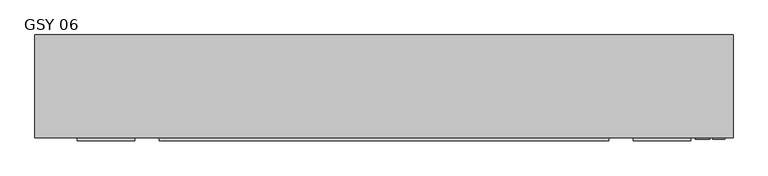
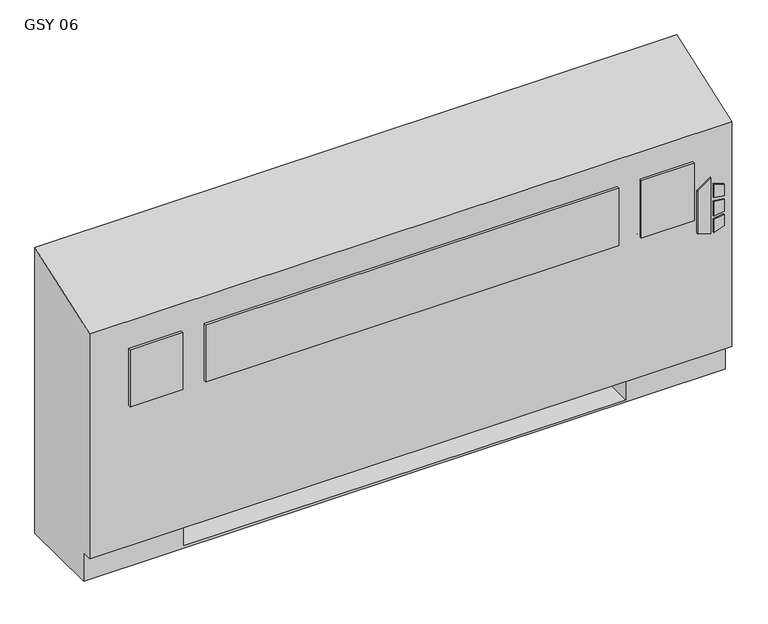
"""IFC4 building model written with IfcOpenShell, lengths in millimetres: proxy geometry, Vertical_Fan_Coil_Unit_-_GSY_-_IEC_-_2-Pipe_FS-FR_RH_2022 : GSY 06."""

from ifc_helpers import new_model, si_unit, point, frame, frame_2d, origin, place, context, project, spatial, polyline, circle_curve, trimmed, segment, composite_curve, outline, extrude, source, transform, mapped, element, save
from ifc_brep_helpers import plane_surface, revolved_surface, advanced_brep


def gsy_06_d914853d(model_context):
    return source(origin(), model_context, "Body", "SolidModel", [
        extrude(outline(polyline([(391.6086829, 843.0368862), (381.6606126, 875.2102728), (523.831537, 875.2102728), (500.8095309, 843.0368862), (391.6086829, 843.0368862)])), frame((0.0, 12.7, 0.0), z_axis=(0.0, 1.0, 0.0), x_axis=(0.0, 0.0, 1.0)), (0.0, 0.0, 1.0), 3.175),
        extrude(outline(polyline([(470.6079683, 881.9686058), (467.4055757, 908.05), (496.6344168, 908.05), (504.6988318, 881.9686058), (470.6079683, 881.9686058)])), frame((0.0, 12.7, 0.0), z_axis=(0.0, 1.0, 0.0), x_axis=(0.0, 0.0, 1.0)), (0.0, 0.0, 1.0), 3.175),
        extrude(outline(polyline([(418.7444414, 908.05), (415.0789404, 881.9686058), (381.6606126, 881.9686058), (390.2948498, 908.05), (418.7444414, 908.05)])), frame((0.0, 12.7, 0.0), z_axis=(0.0, 1.0, 0.0), x_axis=(0.0, 0.0, 1.0)), (0.0, 0.0, 1.0), 3.175),
        extrude(outline(polyline([(458.0596028, 908.05), (460.3414292, 881.9686058), (424.4038806, 881.9686058), (427.1451456, 908.05), (458.0596028, 908.05)])), frame((0.0, 12.7, 0.0), z_axis=(0.0, 1.0, 0.0), x_axis=(0.0, 0.0, 1.0)), (0.0, 0.0, 1.0), 3.175),
        extrude(outline(polyline([(-401.193, 9.525), (-528.193, 9.525), (-528.193, 15.875), (-401.193, 15.875), (-401.193, 9.525)])), frame((0.0, 0.0, 431.8), z_axis=(0.0, 0.0, 1.0), x_axis=(1.0, 0.0, 0.0)), (0.0, 0.0, 1.0), 146.05),
        extrude(outline(polyline([(650.875, 9.525), (-346.075, 9.525), (-346.075, 15.875), (650.875, 15.875), (650.875, 9.525)])), frame((0.0, 0.0, 431.8), z_axis=(0.0, 0.0, 1.0), x_axis=(1.0, 0.0, 0.0)), (0.0, 0.0, 1.0), 146.05),
        extrude(outline(polyline([(832.993, 9.525), (705.993, 9.525), (705.993, 15.875), (832.993, 15.875), (832.993, 9.525)])), frame((0.0, 0.0, 431.8), z_axis=(0.0, 0.0, 1.0), x_axis=(1.0, 0.0, 0.0)), (0.0, 0.0, 1.0), 146.05),
        extrude(outline(polyline([(-501.65, 81.534), (-501.65, 223.266), (-127.0, 223.266), (-127.0, 81.534), (-501.65, 81.534)])), frame((0.0, 0.0, 327.025), z_axis=(0.0, 0.0, 1.0), x_axis=(1.0, 0.0, 0.0)), (0.0, 0.0, 1.0), 260.35),
        extrude(outline(composite_curve([segment(trimmed(circle_curve(frame_2d((80.645, 397.002)), 7.9375), [point((80.645, 404.9395))], [point((80.645, 389.0645))], False, "CARTESIAN"), True, "CONTINUOUS"), segment(trimmed(circle_curve(frame_2d((80.645, 397.002)), 7.9375), [point((80.645, 389.0645))], [point((80.645, 404.9395))], False, "CARTESIAN"), True, "CONTINUOUS")], self_intersect=False)), frame((685.8, 0.0, 0.0), z_axis=(1.0, 0.0, 0.0), x_axis=(0.0, 1.0, 0.0)), (0.0, 0.0, 1.0), 50.8),
        extrude(outline(composite_curve([segment(trimmed(circle_curve(frame_2d((156.8958, 535.8892)), 7.9375), [point((156.8958, 543.8267))], [point((156.8958, 527.9517))], False, "CARTESIAN"), True, "CONTINUOUS"), segment(trimmed(circle_curve(frame_2d((156.8958, 535.8892)), 7.9375), [point((156.8958, 527.9517))], [point((156.8958, 543.8267))], False, "CARTESIAN"), True, "CONTINUOUS")], self_intersect=False)), frame((685.8, 0.0, 0.0), z_axis=(1.0, 0.0, 0.0), x_axis=(0.0, 1.0, 0.0)), (0.0, 0.0, 1.0), 50.8),
        advanced_brep(
        [(-622.3, 244.475, 0.0), (927.1, 244.475, 0.0), (927.1, 41.275, 0.0), (-622.3, 41.275, 0.0), (-622.3, 244.475, 730.25), (927.1, 244.475, 730.25), (685.8, 244.475, 73.025), (914.4, 244.475, 73.025), (914.4, 244.475, 654.05), (685.8, 244.475, 654.05), (685.8, 244.475, 414.8650565), (714.375, 244.475, 414.8650565), (714.375, 244.475, 385.2349435), (685.8, 244.475, 385.2349435), (685.8, 244.475, 287.3375), (714.375, 244.475, 287.3375), (714.375, 244.475, 258.7625), (685.8, 244.475, 258.7625), (685.8, 244.475, 141.2875), (714.375, 244.475, 141.2875), (714.375, 244.475, 112.7125), (685.8, 244.475, 112.7125), (-381.0, 244.475, 654.05), (-609.6, 244.475, 654.05), (-609.6, 244.475, 73.025), (-381.0, 244.475, 73.025), (-381.0, 244.475, 112.7125), (-409.575, 244.475, 112.7125), (-409.575, 244.475, 141.2875), (-381.0, 244.475, 141.2875), (-381.0, 244.475, 258.7625), (-409.575, 244.475, 258.7625), (-409.575, 244.475, 287.3375), (-381.0, 244.475, 287.3375), (-381.0, 244.475, 385.2349435), (-409.575, 244.475, 385.2349435), (-409.575, 244.475, 414.8650565), (-381.0, 244.475, 414.8650565), (704.0626, 244.475, 127.0), (692.9374, 244.475, 127.0), (704.0626, 244.475, 400.05), (692.9374, 244.475, 400.05), (704.0626, 244.475, 273.05), (692.9374, 244.475, 273.05), (-388.1374, 244.475, 127.0), (-399.2626, 244.475, 127.0), (-388.1374, 244.475, 273.05), (-399.2626, 244.475, 273.05), (-388.1374, 244.475, 400.05), (-399.2626, 244.475, 400.05), (-622.3, 41.275, 73.025), (-622.3, 15.875, 73.025), (-622.3, 15.875, 647.7), (927.1, 15.875, 73.025), (927.1, 15.875, 647.7), (927.1, 41.275, 73.025), (-381.0, 41.275, 73.025), (-381.0, 225.425, 73.025), (685.8, 225.425, 73.025), (685.8, 41.275, 73.025), (685.8, 41.275, 6.35), (-381.0, 41.275, 6.35), (685.8, 41.275, 654.05), (914.4, 41.275, 654.05), (914.4, 41.275, 73.025), (685.8, 41.275, 73.025), (-381.0, 41.275, 654.05), (-381.0, 41.275, 73.025), (-609.6, 41.275, 73.025), (-609.6, 41.275, 654.05), (685.8, 225.425, 73.025), (685.8, 238.125, 112.7125), (685.8, 238.125, 141.2875), (685.8, 238.125, 258.7625), (685.8, 238.125, 287.3375), (685.8, 238.125, 385.2349435), (685.8, 238.125, 414.8650565), (-381.0, 225.425, 73.025), (-381.0, 238.125, 414.8650565), (-381.0, 238.125, 385.2349435), (-381.0, 238.125, 287.3375), (-381.0, 238.125, 258.7625), (-381.0, 238.125, 141.2875), (-381.0, 238.125, 112.7125), (-381.0, 225.425, 6.35), (685.8, 225.425, 6.35), (714.375, 238.125, 112.7125), (714.375, 238.125, 141.2875), (692.9374, 238.125, 127.0), (704.0626, 238.125, 127.0), (714.375, 238.125, 258.7625), (714.375, 238.125, 287.3375), (692.9374, 238.125, 273.05), (704.0626, 238.125, 273.05), (714.375, 238.125, 385.2349435), (714.375, 238.125, 414.8650565), (692.9374, 238.125, 400.05), (704.0626, 238.125, 400.05), (-409.575, 238.125, 141.2875), (-409.575, 238.125, 112.7125), (-399.2626, 238.125, 127.0), (-388.1374, 238.125, 127.0), (-409.575, 238.125, 287.3375), (-409.575, 238.125, 258.7625), (-399.2626, 238.125, 273.05), (-388.1374, 238.125, 273.05), (-409.575, 238.125, 414.8650565), (-409.575, 238.125, 385.2349435), (-399.2626, 238.125, 400.05), (-388.1374, 238.125, 400.05)],
        [
            (0, 1),
            (1, 2),
            (2, 3),
            (3, 0),
            (0, 4),
            (4, 5),
            (5, 1),
            (6, 7),
            (7, 8),
            (8, 9),
            (9, 10),
            (10, 11),
            (11, 12),
            (12, 13),
            (13, 14),
            (14, 15),
            (15, 16),
            (16, 17),
            (17, 18),
            (18, 19),
            (19, 20),
            (20, 21),
            (21, 6),
            (22, 23),
            (23, 24),
            (24, 25),
            (25, 26),
            (26, 27),
            (27, 28),
            (28, 29),
            (29, 30),
            (30, 31),
            (31, 32),
            (32, 33),
            (33, 34),
            (34, 35),
            (35, 36),
            (36, 37),
            (37, 22),
            (38, 39, circle_curve(frame((698.5, 244.475, 127.0), z_axis=(0.0, -1.0, 0.0), x_axis=(-1.0, 0.0, 0.0)), 5.5626)),
            (39, 38, circle_curve(frame((698.5, 244.475, 127.0), z_axis=(0.0, -1.0, 0.0), x_axis=(-1.0, 0.0, 0.0)), 5.5626)),
            (40, 41, circle_curve(frame((698.5, 244.475, 400.05), z_axis=(0.0, -1.0, 0.0), x_axis=(-1.0, 0.0, 0.0)), 5.5626)),
            (41, 40, circle_curve(frame((698.5, 244.475, 400.05), z_axis=(0.0, -1.0, 0.0), x_axis=(-1.0, 0.0, 0.0)), 5.5626)),
            (42, 43, circle_curve(frame((698.5, 244.475, 273.05), z_axis=(0.0, -1.0, 0.0), x_axis=(-1.0, 0.0, 0.0)), 5.5626)),
            (43, 42, circle_curve(frame((698.5, 244.475, 273.05), z_axis=(0.0, -1.0, 0.0), x_axis=(-1.0, 0.0, 0.0)), 5.5626)),
            (44, 45, circle_curve(frame((-393.7, 244.475, 127.0), z_axis=(0.0, -1.0, 0.0), x_axis=(-1.0, 0.0, 0.0)), 5.5626)),
            (45, 44, circle_curve(frame((-393.7, 244.475, 127.0), z_axis=(0.0, -1.0, 0.0), x_axis=(-1.0, 0.0, 0.0)), 5.5626)),
            (46, 47, circle_curve(frame((-393.7, 244.475, 273.05), z_axis=(0.0, -1.0, 0.0), x_axis=(-1.0, 0.0, 0.0)), 5.5626)),
            (47, 46, circle_curve(frame((-393.7, 244.475, 273.05), z_axis=(0.0, -1.0, 0.0), x_axis=(-1.0, 0.0, 0.0)), 5.5626)),
            (48, 49, circle_curve(frame((-393.7, 244.475, 400.05), z_axis=(0.0, -1.0, 0.0), x_axis=(-1.0, 0.0, 0.0)), 5.5626)),
            (49, 48, circle_curve(frame((-393.7, 244.475, 400.05), z_axis=(0.0, -1.0, 0.0), x_axis=(-1.0, 0.0, 0.0)), 5.5626)),
            (3, 50),
            (50, 51),
            (51, 52),
            (52, 4),
            (51, 53),
            (53, 54),
            (54, 52),
            (5, 54),
            (53, 55),
            (55, 2),
            (50, 56),
            (56, 57),
            (57, 58),
            (58, 59),
            (59, 55),
            (59, 60),
            (60, 61),
            (61, 56),
            (62, 63),
            (63, 64),
            (64, 65),
            (65, 62),
            (66, 67),
            (67, 68),
            (68, 69),
            (69, 66),
            (65, 70),
            (70, 6),
            (21, 71),
            (71, 72),
            (72, 18),
            (17, 73),
            (73, 74),
            (74, 14),
            (13, 75),
            (75, 76),
            (76, 10),
            (9, 62),
            (64, 7),
            (63, 8),
            (69, 23),
            (22, 66),
            (68, 24),
            (67, 77),
            (77, 25),
            (37, 78),
            (78, 79),
            (79, 34),
            (33, 80),
            (80, 81),
            (81, 30),
            (29, 82),
            (82, 83),
            (83, 26),
            (57, 84),
            (84, 85),
            (85, 58),
            (85, 60),
            (84, 61),
            (71, 86),
            (86, 87),
            (87, 72),
            (88, 89, circle_curve(frame((698.5, 238.125, 127.0), z_axis=(0.0, 1.0, 0.0), x_axis=(-1.0, 0.0, 0.0)), 5.5626)),
            (89, 88, circle_curve(frame((698.5, 238.125, 127.0), z_axis=(0.0, 1.0, 0.0), x_axis=(-1.0, 0.0, 0.0)), 5.5626)),
            (73, 90),
            (90, 91),
            (91, 74),
            (92, 93, circle_curve(frame((698.5, 238.125, 273.05), z_axis=(0.0, 1.0, 0.0), x_axis=(-1.0, 0.0, 0.0)), 5.5626)),
            (93, 92, circle_curve(frame((698.5, 238.125, 273.05), z_axis=(0.0, 1.0, 0.0), x_axis=(-1.0, 0.0, 0.0)), 5.5626)),
            (75, 94),
            (94, 95),
            (95, 76),
            (96, 97, circle_curve(frame((698.5, 238.125, 400.05), z_axis=(0.0, 1.0, 0.0), x_axis=(-1.0, 0.0, 0.0)), 5.5626)),
            (97, 96, circle_curve(frame((698.5, 238.125, 400.05), z_axis=(0.0, 1.0, 0.0), x_axis=(-1.0, 0.0, 0.0)), 5.5626)),
            (98, 99),
            (99, 83),
            (82, 98),
            (100, 101, circle_curve(frame((-393.7, 238.125, 127.0), z_axis=(0.0, 1.0, 0.0), x_axis=(-1.0, 0.0, 0.0)), 5.5626)),
            (101, 100, circle_curve(frame((-393.7, 238.125, 127.0), z_axis=(0.0, 1.0, 0.0), x_axis=(-1.0, 0.0, 0.0)), 5.5626)),
            (102, 103),
            (103, 81),
            (80, 102),
            (104, 105, circle_curve(frame((-393.7, 238.125, 273.05), z_axis=(0.0, 1.0, 0.0), x_axis=(-1.0, 0.0, 0.0)), 5.5626)),
            (105, 104, circle_curve(frame((-393.7, 238.125, 273.05), z_axis=(0.0, 1.0, 0.0), x_axis=(-1.0, 0.0, 0.0)), 5.5626)),
            (106, 107),
            (107, 79),
            (78, 106),
            (108, 109, circle_curve(frame((-393.7, 238.125, 400.05), z_axis=(0.0, 1.0, 0.0), x_axis=(-1.0, 0.0, 0.0)), 5.5626)),
            (109, 108, circle_curve(frame((-393.7, 238.125, 400.05), z_axis=(0.0, 1.0, 0.0), x_axis=(-1.0, 0.0, 0.0)), 5.5626)),
            (87, 19),
            (86, 20),
            (91, 15),
            (90, 16),
            (95, 11),
            (94, 12),
            (28, 98),
            (99, 27),
            (32, 102),
            (103, 31),
            (36, 106),
            (107, 35),
            (88, 39),
            (38, 89),
            (96, 41),
            (40, 97),
            (92, 43),
            (42, 93),
            (100, 45),
            (44, 101),
            (104, 47),
            (46, 105),
            (108, 49),
            (48, 109),
        ],
        [
            plane_surface(frame((-622.3, 244.475, 0.0), z_axis=(0.0, 0.0, -1.0), x_axis=(1.0, 0.0, 0.0))),
            plane_surface(frame((927.1, 244.475, 730.25), z_axis=(0.0, 1.0, 0.0), x_axis=(0.0, 0.0, -1.0))),
            plane_surface(frame((-622.3, 244.475, 730.25), z_axis=(-1.0, 0.0, 0.0), x_axis=(0.0, 0.0, -1.0))),
            plane_surface(frame((-622.3, 15.875, 730.25), z_axis=(0.0, -1.0, 0.0), x_axis=(0.0, 0.0, -1.0))),
            plane_surface(frame((927.1, 15.875, 730.25), z_axis=(1.0, 0.0, 0.0), x_axis=(0.0, 0.0, -1.0))),
            plane_surface(frame((-622.3, 15.875, 73.025), z_axis=(0.0, 0.0, -1.0), x_axis=(1.0, 0.0, 0.0))),
            plane_surface(frame((-622.3, 41.275, 73.025), z_axis=(0.0, -1.0, 0.0), x_axis=(1.0, 0.0, 0.0))),
            plane_surface(frame((685.8, 41.275, 654.05), z_axis=(0.0, 1.0, 0.0), x_axis=(0.0, 0.0, -1.0))),
            plane_surface(frame((685.8, 41.275, 654.05), z_axis=(1.0, 0.0, 0.0), x_axis=(0.0, 1.0, 0.0))),
            plane_surface(frame((685.8, 41.275, 73.025), z_axis=(0.0, 0.0, 1.0), x_axis=(0.0, 1.0, 0.0))),
            plane_surface(frame((914.4, 41.275, 73.025), z_axis=(-1.0, 0.0, 0.0), x_axis=(0.0, 1.0, 0.0))),
            plane_surface(frame((914.4, 41.275, 654.05), z_axis=(0.0, 0.0, -1.0), x_axis=(0.0, 1.0, 0.0))),
            plane_surface(frame((-381.0, 41.275, 654.05), z_axis=(0.0, 0.0, -1.0), x_axis=(0.0, 1.0, 0.0))),
            plane_surface(frame((-609.6, 41.275, 654.05), z_axis=(1.0, 0.0, 0.0), x_axis=(0.0, 1.0, 0.0))),
            plane_surface(frame((-609.6, 41.275, 73.025), z_axis=(0.0, 0.0, 1.0), x_axis=(0.0, 1.0, 0.0))),
            plane_surface(frame((-381.0, 41.275, 73.025), z_axis=(-1.0, 0.0, 0.0), x_axis=(0.0, 1.0, 0.0))),
            plane_surface(frame((685.8, 225.425, 73.025), z_axis=(0.0, -1.0, 0.0), x_axis=(0.0, 0.0, -1.0))),
            plane_surface(frame((685.8, 225.425, 73.025), z_axis=(-1.0, 0.0, 0.0), x_axis=(0.0, -1.0, 0.0))),
            plane_surface(frame((685.8, 225.425, 6.35), z_axis=(0.0, 0.0, 1.0), x_axis=(0.0, -1.0, 0.0))),
            plane_surface(frame((-381.0, 225.425, 6.35), z_axis=(1.0, 0.0, 0.0), x_axis=(0.0, -1.0, 0.0))),
            plane_surface(frame((714.375, 238.125, 141.2875), z_axis=(0.0, -1.0, 0.0), x_axis=(-1.0, 0.0, 0.0))),
            plane_surface(frame((685.8, 244.475, 141.2875), z_axis=(0.0, 0.0, 1.0), x_axis=(0.0, -1.0, 0.0))),
            plane_surface(frame((714.375, 244.475, 141.2875), z_axis=(1.0, 0.0, 0.0), x_axis=(0.0, -1.0, 0.0))),
            plane_surface(frame((714.375, 244.475, 112.7125), z_axis=(0.0, 0.0, -1.0), x_axis=(0.0, -1.0, 0.0))),
            plane_surface(frame((685.8, 244.475, 287.3375), z_axis=(0.0, 0.0, 1.0), x_axis=(0.0, -1.0, 0.0))),
            plane_surface(frame((714.375, 244.475, 287.3375), z_axis=(1.0, 0.0, 0.0), x_axis=(0.0, -1.0, 0.0))),
            plane_surface(frame((714.375, 244.475, 258.7625), z_axis=(0.0, 0.0, -1.0), x_axis=(0.0, -1.0, 0.0))),
            plane_surface(frame((685.8, 244.475, 414.8650565), z_axis=(0.0, 0.0, 1.0), x_axis=(0.0, -1.0, 0.0))),
            plane_surface(frame((714.375, 244.475, 414.8650565), z_axis=(1.0, 0.0, 0.0), x_axis=(0.0, -1.0, 0.0))),
            plane_surface(frame((714.375, 244.475, 385.2349435), z_axis=(0.0, 0.0, -1.0), x_axis=(0.0, -1.0, 0.0))),
            plane_surface(frame((-409.575, 244.475, 141.2875), z_axis=(0.0, 0.0, 1.0), x_axis=(0.0, -1.0, 0.0))),
            plane_surface(frame((-381.0, 244.475, 112.7125), z_axis=(0.0, 0.0, -1.0), x_axis=(0.0, -1.0, 0.0))),
            plane_surface(frame((-409.575, 244.475, 112.7125), z_axis=(-1.0, 0.0, 0.0), x_axis=(0.0, -1.0, 0.0))),
            plane_surface(frame((-409.575, 244.475, 287.3375), z_axis=(0.0, 0.0, 1.0), x_axis=(0.0, -1.0, 0.0))),
            plane_surface(frame((-381.0, 244.475, 258.7625), z_axis=(0.0, 0.0, -1.0), x_axis=(0.0, -1.0, 0.0))),
            plane_surface(frame((-409.575, 244.475, 258.7625), z_axis=(-1.0, 0.0, 0.0), x_axis=(0.0, -1.0, 0.0))),
            plane_surface(frame((-409.575, 244.475, 414.8650565), z_axis=(0.0, 0.0, 1.0), x_axis=(0.0, -1.0, 0.0))),
            plane_surface(frame((-381.0, 244.475, 385.2349435), z_axis=(0.0, 0.0, -1.0), x_axis=(0.0, -1.0, 0.0))),
            plane_surface(frame((-409.575, 244.475, 385.2349435), z_axis=(-1.0, 0.0, 0.0), x_axis=(0.0, -1.0, 0.0))),
            revolved_surface(polyline([(692.9374, 238.125, 127.0), (692.9374, 244.475, 127.0)]), (698.5, 244.475, 127.0), (0.0, -1.0, 0.0)),
            revolved_surface(polyline([(692.9374, 238.125, 400.05), (692.9374, 244.475, 400.05)]), (698.5, 244.475, 400.05), (0.0, -1.0, 0.0)),
            revolved_surface(polyline([(692.9374, 238.125, 273.05), (692.9374, 244.475, 273.05)]), (698.5, 244.475, 273.05), (0.0, -1.0, 0.0)),
            revolved_surface(polyline([(-399.26259999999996, 238.125, 127.0), (-399.26259999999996, 244.475, 127.0)]), (-393.7, 244.475, 127.0), (0.0, -1.0, 0.0)),
            revolved_surface(polyline([(-399.26259999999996, 238.125, 273.05), (-399.26259999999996, 244.475, 273.05)]), (-393.7, 244.475, 273.05), (0.0, -1.0, 0.0)),
            revolved_surface(polyline([(-399.26259999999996, 238.125, 400.05), (-399.26259999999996, 244.475, 400.05)]), (-393.7, 244.475, 400.05), (0.0, -1.0, 0.0)),
            plane_surface(frame((-622.3, 244.475, 730.25), z_axis=(0.0, -0.33964446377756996, 0.9405538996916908), x_axis=(1.0, 0.0, 0.0))),
        ],
        [
            (0, [[1, 2, 3, 4]]),
            (1, [[-1, 5, 6, 7], [8, 9, 10, 11, 12, 13, 14, 15, 16, 17, 18, 19, 20, 21, 22, 23], [24, 25, 26, 27, 28, 29, 30, 31, 32, 33, 34, 35, 36, 37, 38, 39], [40, 41], [42, 43], [44, 45], [46, 47], [48, 49], [50, 51]]),
            (2, [[-5, -4, 52, 53, 54, 55]]),
            (3, [[56, 57, 58, -54]]),
            (4, [[-7, 59, -57, 60, 61, -2]]),
            (5, [[-53, 62, 63, 64, 65, 66, -60, -56]]),
            (6, [[-3, -61, -66, 67, 68, 69, -62, -52]]),
            (7, [[70, 71, 72, 73]]),
            (7, [[74, 75, 76, 77]]),
            (8, [[-73, 78, 79, -23, 80, 81, 82, -19, 83, 84, 85, -15, 86, 87, 88, -11, 89]]),
            (9, [[-72, 90, -8, -79, -78]]),
            (10, [[-71, 91, -9, -90]]),
            (11, [[-70, -89, -10, -91]]),
            (12, [[-77, 92, -24, 93]]),
            (13, [[-76, 94, -25, -92]]),
            (14, [[-75, 95, 96, -26, -94]]),
            (15, [[-74, -93, -39, 97, 98, 99, -35, 100, 101, 102, -31, 103, 104, 105, -27, -96, -95]]),
            (16, [[-64, 106, 107, 108]]),
            (17, [[-108, 109, -67, -65]]),
            (18, [[-107, 110, -68, -109]]),
            (19, [[-106, -63, -69, -110]]),
            (20, [[111, 112, 113, -81], [114, 115]]),
            (20, [[116, 117, 118, -84], [119, 120]]),
            (20, [[121, 122, 123, -87], [124, 125]]),
            (20, [[126, 127, -104, 128], [129, 130]]),
            (20, [[131, 132, -101, 133], [134, 135]]),
            (20, [[136, 137, -98, 138], [139, 140]]),
            (21, [[-113, 141, -20, -82]]),
            (22, [[-112, 142, -21, -141]]),
            (23, [[-111, -80, -22, -142]]),
            (24, [[-118, 143, -16, -85]]),
            (25, [[-117, 144, -17, -143]]),
            (26, [[-116, -83, -18, -144]]),
            (27, [[-123, 145, -12, -88]]),
            (28, [[-122, 146, -13, -145]]),
            (29, [[-121, -86, -14, -146]]),
            (30, [[-128, -103, -30, 147]]),
            (31, [[-127, 148, -28, -105]]),
            (32, [[-126, -147, -29, -148]]),
            (33, [[-133, -100, -34, 149]]),
            (34, [[-132, 150, -32, -102]]),
            (35, [[-131, -149, -33, -150]]),
            (36, [[-138, -97, -38, 151]]),
            (37, [[-137, 152, -36, -99]]),
            (38, [[-136, -151, -37, -152]]),
            (39, [[153, -40, 154, -114]]),
            (39, [[-153, -115, -154, -41]]),
            (40, [[155, -42, 156, -124]]),
            (40, [[-155, -125, -156, -43]]),
            (41, [[157, -44, 158, -119]]),
            (41, [[-157, -120, -158, -45]]),
            (42, [[159, -46, 160, -129]]),
            (42, [[-159, -130, -160, -47]]),
            (43, [[161, -48, 162, -134]]),
            (43, [[-161, -135, -162, -49]]),
            (44, [[163, -50, 164, -139]]),
            (44, [[-163, -140, -164, -51]]),
            (45, [[-6, -55, -58, -59]]),
        ],
    ),
    ])


if __name__ == "__main__":
    model = new_model("IFC4")
    model_context = context("Model", 3, world=origin())
    ifc_project = project(units=[si_unit("LENGTHUNIT", "METRE", prefix="MILLI")], contexts=[model_context])
    site = spatial("IfcSite", under=ifc_project)
    building = spatial("IfcBuilding", under=site)
    placement = place(None, origin())
    gsy_06_shape = gsy_06_d914853d(model_context)
    element("IfcBuildingElementProxy", 1, Name="Vertical_Fan_Coil_Unit_-_GSY_-_IEC_-_2-Pipe_FS-FR_RH_2022 : GSY 06", ObjectType="Vertical_Fan_Coil_Unit_-_GSY_-_IEC_-_2-Pipe_FS-FR_RH_2022 : GSY 06", at=placement, inside=building, context=model_context, shape_type="MappedRepresentation", body=[
        mapped(gsy_06_shape, transform((0.0, 0.0, 0.0), x_axis=(1.0, 0.0, 0.0), y_axis=(0.0, 1.0, 0.0), z_axis=(0.0, 0.0, 1.0))),
    ])
    save(model, "model.ifc")
